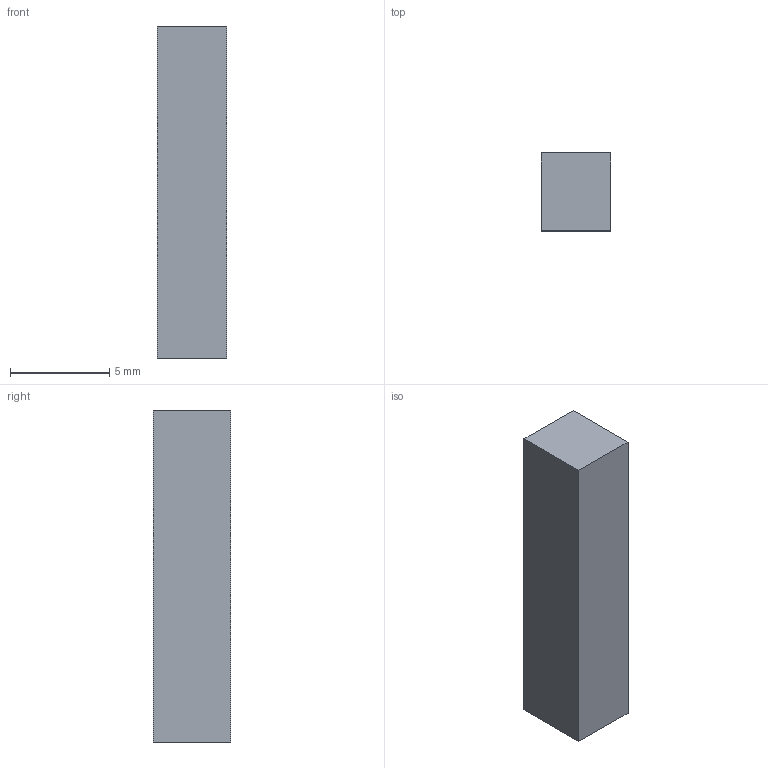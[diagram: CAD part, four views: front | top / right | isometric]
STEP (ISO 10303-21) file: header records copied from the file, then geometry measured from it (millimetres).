
FILE_DESCRIPTION(('Open CASCADE Model'),'2;1');
FILE_NAME('Open CASCADE Shape Model','2026-08-18T10:55:12',('Author'),( 'Open CASCADE'),'Open CASCADE STEP processor 7.9','Open CASCADE 7.9' ,'Unknown');
FILE_SCHEMA(('AUTOMOTIVE_DESIGN { 1 0 10303 214 1 1 1 1 }'));
Length unit declared in the file: millimetre
Products named in the file (1): mipi_connector_1
Bounding box: 3.5 x 3.9 x 16.7 mm (x, y, z)
Volume: 228 mm3; surface area: 274.5 mm2
Topology: 1 solids, 1 shells, 6 faces, 12 edges, 8 vertices
Faces by surface type: plane 6
Entity records: 322 total; most frequent: CARTESIAN_POINT 51, DIRECTION 50, LINE 36, VECTOR 36, ORIENTED_EDGE 24, PCURVE 24, DEFINITIONAL_REPRESENTATION 24, EDGE_CURVE 12
